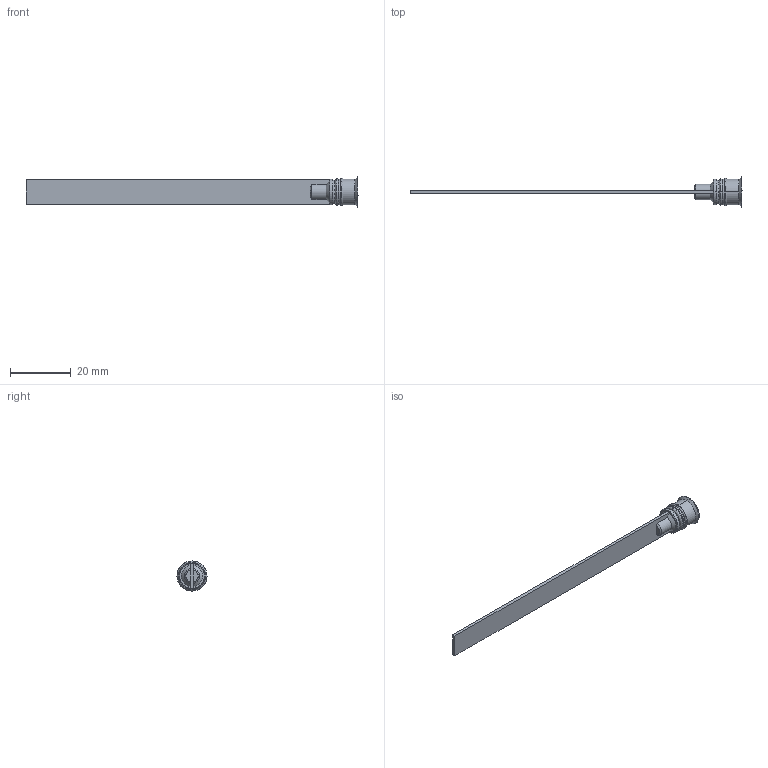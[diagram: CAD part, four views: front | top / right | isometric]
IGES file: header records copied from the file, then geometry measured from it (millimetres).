
Start section: START RECORD GO HERE.
Global section: file name: RL-8x100.igs; native system: DASSAULT SYSTEMES CATIA V5 R20 - www.3ds.com; preprocessor: CATIA Version 5 Release 20 ; author: Utente; organization: NB04-ASUS; date: 20210303.200306; units: millimetre
Bounding box: 109.5 x 9.9 x 9.9 mm (x, y, z)
Surface area: 2448 mm2 (no closed solid volume)
Topology: 0 solids, 0 shells, 65 faces, 364 edges, 364 vertices
Faces by surface type: revolution 38, plane 27
